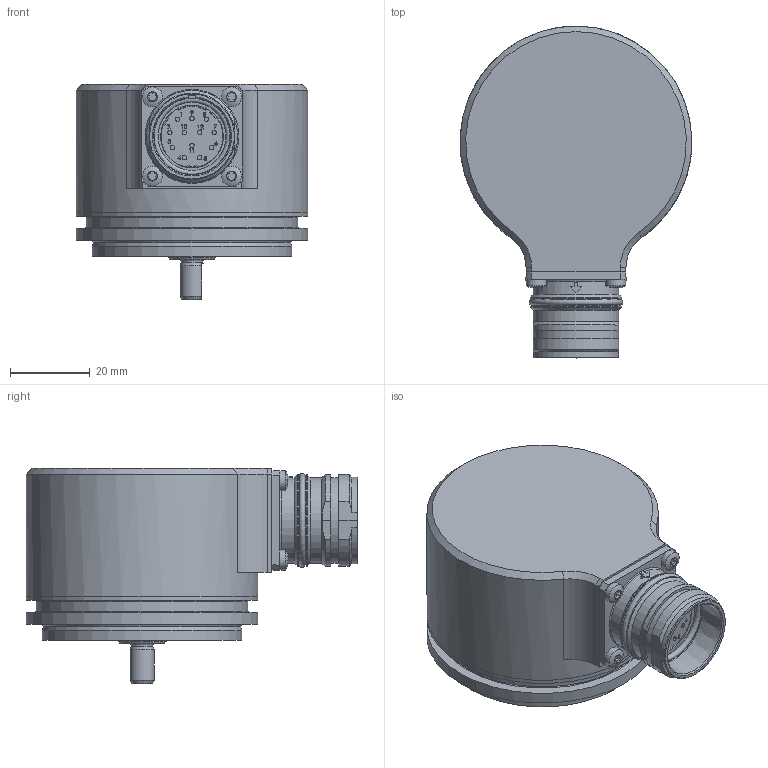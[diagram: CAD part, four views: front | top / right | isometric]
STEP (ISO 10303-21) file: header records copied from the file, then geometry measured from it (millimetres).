
FILE_DESCRIPTION( ( 'Unknown' ), '1' );
FILE_NAME( 'Z:/PJ-RD-MC/10601626_MAGRES_4/20__Produktmanagement/Datenblatt/Vereinfachte Modelle und DAB-Zeichnungen/November 2016/58/Servoflansch/EAM580-SY6.7Fxx.xxxxx.A.stp', 'Unknown', ( 'Unknown' ), ( 'Unknown' ), 'PSStep 15.0.49', 'Unknown', ' ' );
FILE_SCHEMA( ( 'AUTOMOTIVE_DESIGN { 1 0 10303 214 1 1 1 1 }' ) );
Length unit declared in the file: millimetre
Products named in the file (10): 58 Haube M23 vereinfacht; 11164548_vereinfacht; 139658; 7414012992; 58 S BoMo vereinfacht; 11158181_vereinfacht; 11158186 vereinfacht; Assem1; 11160300
Assembly tree (12 placements, depth 3):
  Assem1
    11160300
    58 Haube M23 vereinfacht
      11164548_vereinfacht
      139658  x4
      7414012992
      7414012992
    58 S BoMo vereinfacht
      11158181_vereinfacht
      11158186 vereinfacht
Bounding box: 58 x 83 x 53.8 mm (x, y, z)
Surface area: 34785.1 mm2 (no closed solid volume)
Topology: 0 solids, 770 shells, 770 faces, 3758 edges, 3639 vertices
Faces by surface type: plane 399, extrusion 146, cylinder 136, cone 62, torus 13, bspline 10, sphere 4
Full cylindrical faces by diameter (mm): 1.1 x12, 2.35 x4, 2.459 x6, 2.5 x16, 3.242 x6, 5 x4, 10 x2, 12 x1, 17.643 x1, 18.95 x1, 19.176 x1, 20 x1, 21.346 x1, 21.45 x3, 21.858 x1, 22.85 x2, 23 x1, 26 x2, 26.06 x1, 50 x1, 53 x1, 56 x2, 58 x3
Entity records: 57722 total; most frequent: CARTESIAN_POINT 28261, DIRECTION 4452, VERTEX_POINT 3247, ORIENTED_EDGE 3242, EDGE_CURVE 3242, VECTOR 1820, LINE 1674, AXIS2_PLACEMENT_3D 1316
